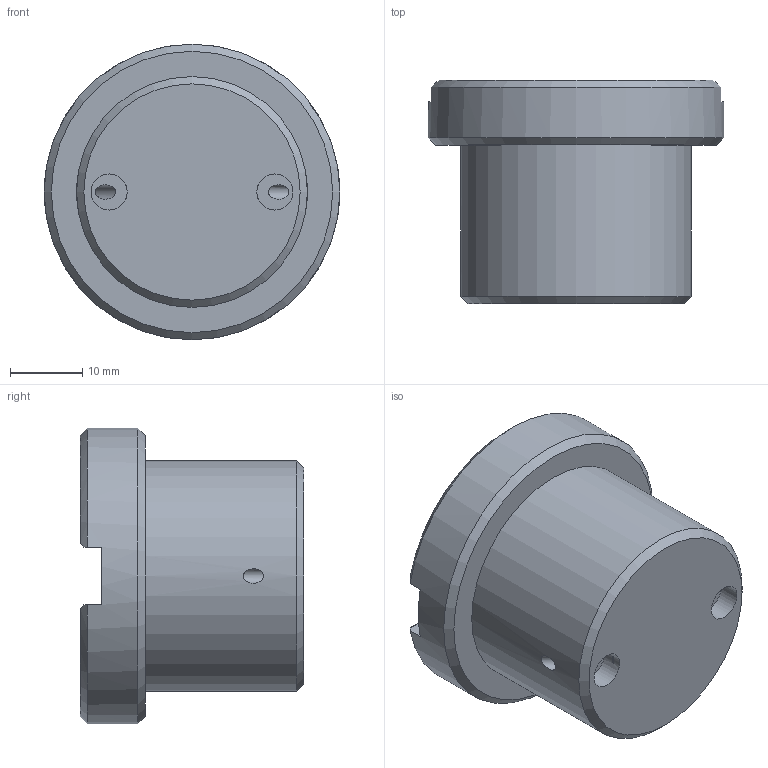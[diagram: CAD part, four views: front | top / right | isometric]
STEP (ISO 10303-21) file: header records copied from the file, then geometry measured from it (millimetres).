
FILE_DESCRIPTION(/* description */ (''),/* implementation_level */ '2;1');
FILE_NAME(/* name */ '',/* time_stamp */ '2025-02-05T13:57:15+09:00',/* author */ ('jhkim'),/* organization */ (''),/* preprocessor_version */ 'ST-DEVELOPER v20',/* originating_system */ 'Autodesk Inventor 2025',/* authorisation */ '');
FILE_SCHEMA (('AUTOMOTIVE_DESIGN { 1 0 10303 214 3 1 1 }'));
Length unit declared in the file: millimetre
Products named in the file (1): 가공품
Bounding box: 41 x 31 x 41 mm (x, y, z)
Volume: 28267.1 mm3; surface area: 6122.5 mm2
Topology: 1 solids, 1 shells, 25 faces, 62 edges, 41 vertices
Faces by surface type: plane 13, cylinder 8, cone 4
Full cylindrical faces by diameter (mm): 2 x2, 5 x2, 32 x1, 41 x1
Entity records: 878 total; most frequent: CARTESIAN_POINT 246, ORIENTED_EDGE 124, DIRECTION 121, EDGE_CURVE 62, AXIS2_PLACEMENT_3D 50, VERTEX_POINT 41, EDGE_LOOP 31, FACE_OUTER_BOUND 25
